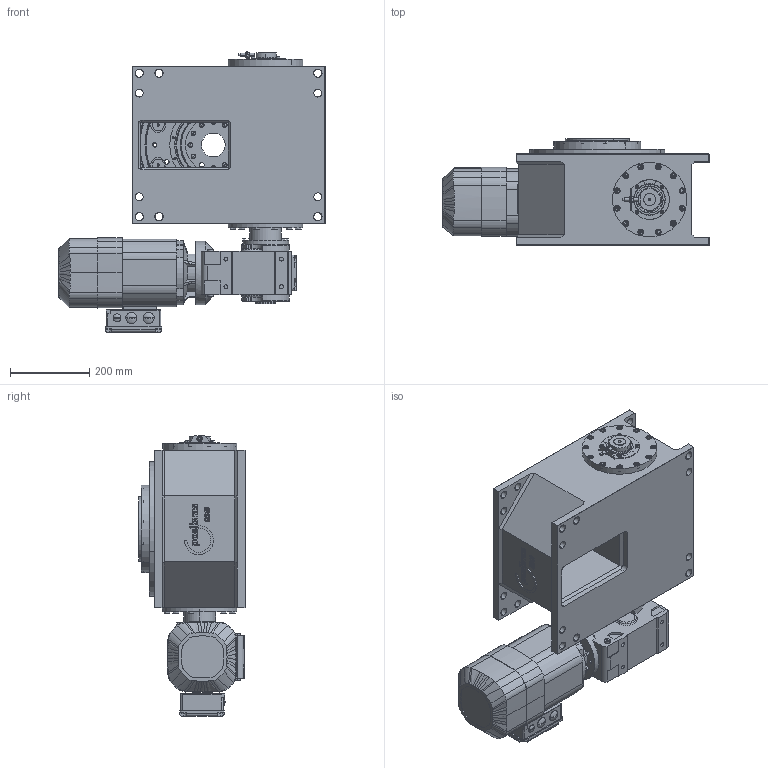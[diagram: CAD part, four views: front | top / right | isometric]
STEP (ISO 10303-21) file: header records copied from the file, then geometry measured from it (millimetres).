
FILE_DESCRIPTION (( 'STEP AP214' ), '1' );
FILE_NAME ('M340_SEW_KA47DRE90M4BE2_D1_09.STEP', '2020-06-17T12:12:39', ( '' ), ( '' ), 'SwSTEP 2.0', 'SolidWorks 2020', '' );
FILE_SCHEMA (( 'AUTOMOTIVE_DESIGN' ));
Length unit declared in the file: millimetre
Products named in the file (1): M340_SEW_KA47DRE90M4BE2_D1_09
Bounding box: 671.5 x 269 x 708.47 mm (x, y, z)
Surface area: 1643418.3 mm2 (no closed solid volume)
Topology: 0 solids, 112 shells, 1730 faces, 5298 edges, 3517 vertices
Faces by surface type: plane 822, cylinder 475, cone 221, torus 106, bspline 100, sphere 6
Entity records: 85155 total; most frequent: CARTESIAN_POINT 19396, DIRECTION 9927, ORIENTED_EDGE 8786, EDGE_CURVE 5248, AXIS2_PLACEMENT_3D 3529, VERTEX_POINT 3517, LINE 2869, VECTOR 2869
